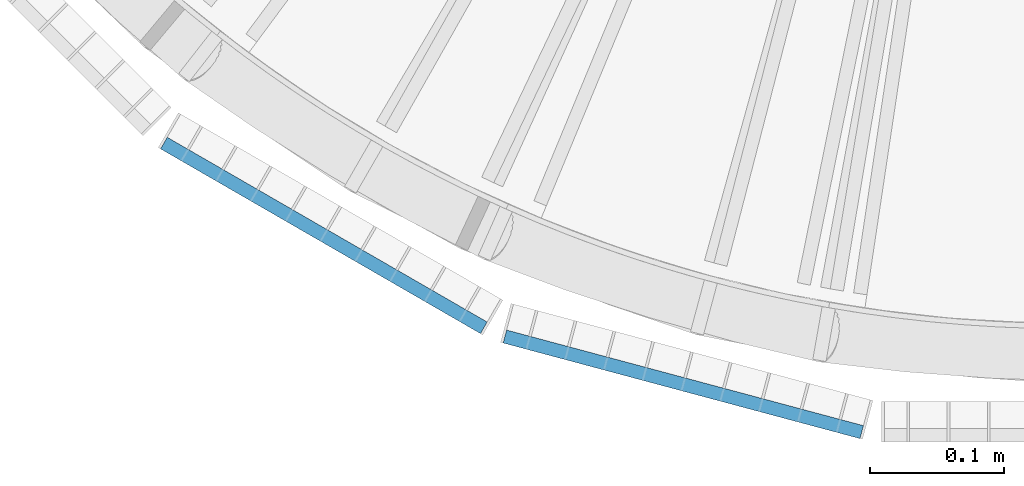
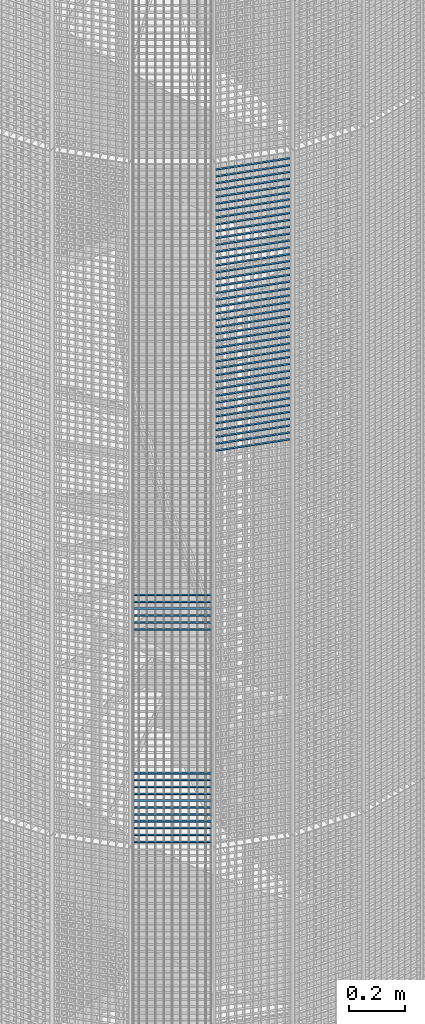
# One storey, part 360 of 1183: 59 beams, 2 elements without a shape of their own.
"""IFC2X3 building model written with IfcOpenShell, lengths in millimetres."""

from ifc_helpers import new_model, si_unit, frame, origin_with_axes, origin_2d_with_axis, place, context, subcontext, project, spatial, rectangle, extrude, material, type_object, element, aggregate, save


model = new_model("IFC2X3")

# Units and contexts
model_context = context("Model", 3, precision=1e-05, world=origin_with_axes())
body_context = subcontext(model_context, "Body", "Model", "MODEL_VIEW")
ifc_project = project(units=[si_unit("LENGTHUNIT", "METRE", prefix="MILLI"), si_unit("AREAUNIT", "SQUARE_METRE"), si_unit("VOLUMEUNIT", "CUBIC_METRE"), si_unit("MASSUNIT", "GRAM", prefix="KILO"), si_unit("TIMEUNIT", "SECOND"), si_unit("PLANEANGLEUNIT", "RADIAN"), si_unit("SOLIDANGLEUNIT", "STERADIAN"), si_unit("THERMODYNAMICTEMPERATUREUNIT", "DEGREE_CELSIUS"), si_unit("LUMINOUSINTENSITYUNIT", "LUMEN")], contexts=[model_context])

# Site, building, storey
site_placement = place(None, origin_with_axes())
site = spatial("IfcSite", under=ifc_project, at=site_placement, Name="Undefined", CompositionType="ELEMENT")
building_placement = place(site_placement, origin_with_axes())
building = spatial("IfcBuilding", under=site, at=building_placement, Name="Undefined", CompositionType="ELEMENT")
storey_placement = place(building_placement, origin_with_axes())
storey = spatial("IfcBuildingStorey", under=building, at=storey_placement, Name="Undefined", CompositionType="ELEMENT", Elevation=0.0)

# Assembly, beams
assembly_1_placement = place(storey_placement, origin_with_axes())
assembly_1 = element("IfcElementAssembly", 1, at=assembly_1_placement, inside=storey, Name="BORDURE", AssemblyPlace="NOTDEFINED", PredefinedType="NOTDEFINED")
ifc_material = material(Name="STEEL/S235JR")
beam_type = type_object("IfcBeamType", Name="PL2*10", PredefinedType="NOTDEFINED")
beam_1_placement = place(assembly_1_placement, frame((21162.7680445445, -1033.29996828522, 9330.0), z_axis=(-0.49999999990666, -0.866025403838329, 0.0), x_axis=(-0.866025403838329, 0.499999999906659, 0.0)))
beam_1 = element("IfcBeam", 2, at=beam_1_placement, type_object=beam_type, material=ifc_material, Name="ENTRETOISE", context=body_context, shape_type="SweptSolid", body=[
    extrude(rectangle(XDim=2.0, YDim=10.0, at=origin_2d_with_axis()), frame((275.999999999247, 9.09494701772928e-13, 1.53210777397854e-14), z_axis=(-1.0, 0.0, 0.0), x_axis=(0.0, -1.0, 0.0)), (0.0, 0.0, 1.0), 276.0),
])
beam_2_placement = place(assembly_1_placement, frame((21162.7680445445, -1033.29996828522, 9960.0), z_axis=(-0.49999999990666, -0.866025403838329, 0.0), x_axis=(-0.866025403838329, 0.499999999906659, 0.0)))
beam_2 = element("IfcBeam", 3, at=beam_2_placement, type_object=beam_type, material=ifc_material, Name="ENTRETOISE", context=body_context, shape_type="SweptSolid", body=[
    extrude(rectangle(XDim=2.0, YDim=10.0, at=origin_2d_with_axis()), frame((275.999999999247, 9.09494701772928e-13, 1.53210777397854e-14), z_axis=(-1.0, 0.0, 0.0), x_axis=(0.0, -1.0, 0.0)), (0.0, 0.0, 1.0), 276.0),
])
beam_3_placement = place(assembly_1_placement, frame((21162.7680445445, -1033.29996828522, 9300.0), z_axis=(-0.49999999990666, -0.866025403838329, 0.0), x_axis=(-0.866025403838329, 0.499999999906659, 0.0)))
beam_3 = element("IfcBeam", 4, at=beam_3_placement, type_object=beam_type, material=ifc_material, Name="ENTRETOISE", context=body_context, shape_type="SweptSolid", body=[
    extrude(rectangle(XDim=2.0, YDim=10.0, at=origin_2d_with_axis()), frame((275.999999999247, 9.09494701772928e-13, 1.53210777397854e-14), z_axis=(-1.0, 0.0, 0.0), x_axis=(0.0, -1.0, 0.0)), (0.0, 0.0, 1.0), 276.0),
])
beam_4_placement = place(assembly_1_placement, frame((21162.7680445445, -1033.29996828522, 9270.0), z_axis=(-0.49999999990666, -0.866025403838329, 0.0), x_axis=(-0.866025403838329, 0.499999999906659, 0.0)))
beam_4 = element("IfcBeam", 5, at=beam_4_placement, type_object=beam_type, material=ifc_material, Name="ENTRETOISE", context=body_context, shape_type="SweptSolid", body=[
    extrude(rectangle(XDim=2.0, YDim=10.0, at=origin_2d_with_axis()), frame((275.999999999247, 9.09494701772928e-13, 1.53210777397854e-14), z_axis=(-1.0, 0.0, 0.0), x_axis=(0.0, -1.0, 0.0)), (0.0, 0.0, 1.0), 276.0),
])
beam_5_placement = place(assembly_1_placement, frame((21162.7680445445, -1033.29996828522, 9990.0), z_axis=(-0.49999999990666, -0.866025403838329, 0.0), x_axis=(-0.866025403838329, 0.499999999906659, 0.0)))
beam_5 = element("IfcBeam", 6, at=beam_5_placement, type_object=beam_type, material=ifc_material, Name="ENTRETOISE", context=body_context, shape_type="SweptSolid", body=[
    extrude(rectangle(XDim=2.0, YDim=10.0, at=origin_2d_with_axis()), frame((275.999999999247, 9.09494701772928e-13, 1.53210777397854e-14), z_axis=(-1.0, 0.0, 0.0), x_axis=(0.0, -1.0, 0.0)), (0.0, 0.0, 1.0), 276.0),
])
beam_6_placement = place(assembly_1_placement, frame((21162.7680445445, -1033.29996828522, 9240.0), z_axis=(-0.49999999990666, -0.866025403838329, 0.0), x_axis=(-0.866025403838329, 0.499999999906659, 0.0)))
beam_6 = element("IfcBeam", 7, at=beam_6_placement, type_object=beam_type, material=ifc_material, Name="ENTRETOISE", context=body_context, shape_type="SweptSolid", body=[
    extrude(rectangle(XDim=2.0, YDim=10.0, at=origin_2d_with_axis()), frame((275.999999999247, 9.09494701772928e-13, 1.53210777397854e-14), z_axis=(-1.0, 0.0, 0.0), x_axis=(0.0, -1.0, 0.0)), (0.0, 0.0, 1.0), 276.0),
])
beam_7_placement = place(assembly_1_placement, frame((21162.7680445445, -1033.29996828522, 10020.0), z_axis=(-0.49999999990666, -0.866025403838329, 0.0), x_axis=(-0.866025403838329, 0.499999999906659, 0.0)))
beam_7 = element("IfcBeam", 8, at=beam_7_placement, type_object=beam_type, material=ifc_material, Name="ENTRETOISE", context=body_context, shape_type="SweptSolid", body=[
    extrude(rectangle(XDim=2.0, YDim=10.0, at=origin_2d_with_axis()), frame((275.999999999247, 9.09494701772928e-13, 1.53210777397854e-14), z_axis=(-1.0, 0.0, 0.0), x_axis=(0.0, -1.0, 0.0)), (0.0, 0.0, 1.0), 276.0),
])
beam_8_placement = place(assembly_1_placement, frame((21162.7680445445, -1033.29996828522, 9210.0), z_axis=(-0.49999999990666, -0.866025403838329, 0.0), x_axis=(-0.866025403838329, 0.499999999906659, 0.0)))
beam_8 = element("IfcBeam", 9, at=beam_8_placement, type_object=beam_type, material=ifc_material, Name="ENTRETOISE", context=body_context, shape_type="SweptSolid", body=[
    extrude(rectangle(XDim=2.0, YDim=10.0, at=origin_2d_with_axis()), frame((275.999999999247, 9.09494701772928e-13, 1.53210777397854e-14), z_axis=(-1.0, 0.0, 0.0), x_axis=(0.0, -1.0, 0.0)), (0.0, 0.0, 1.0), 276.0),
])
beam_9_placement = place(assembly_1_placement, frame((21162.7680445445, -1033.29996828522, 9180.0), z_axis=(-0.49999999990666, -0.866025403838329, 0.0), x_axis=(-0.866025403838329, 0.499999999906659, 0.0)))
beam_9 = element("IfcBeam", 10, at=beam_9_placement, type_object=beam_type, material=ifc_material, Name="ENTRETOISE", context=body_context, shape_type="SweptSolid", body=[
    extrude(rectangle(XDim=2.0, YDim=10.0, at=origin_2d_with_axis()), frame((275.999999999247, 9.09494701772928e-13, 1.53210777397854e-14), z_axis=(-1.0, 0.0, 0.0), x_axis=(0.0, -1.0, 0.0)), (0.0, 0.0, 1.0), 276.0),
])
beam_10_placement = place(assembly_1_placement, frame((21162.7680445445, -1033.29996828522, 10050.0), z_axis=(-0.49999999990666, -0.866025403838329, 0.0), x_axis=(-0.866025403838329, 0.499999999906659, 0.0)))
beam_10 = element("IfcBeam", 11, at=beam_10_placement, type_object=beam_type, material=ifc_material, Name="ENTRETOISE", context=body_context, shape_type="SweptSolid", body=[
    extrude(rectangle(XDim=2.0, YDim=10.0, at=origin_2d_with_axis()), frame((275.999999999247, 9.09494701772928e-13, 1.53210777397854e-14), z_axis=(-1.0, 0.0, 0.0), x_axis=(0.0, -1.0, 0.0)), (0.0, 0.0, 1.0), 276.0),
])
beam_11_placement = place(assembly_1_placement, frame((21162.7680445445, -1033.29996828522, 9150.0), z_axis=(-0.49999999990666, -0.866025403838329, 0.0), x_axis=(-0.866025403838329, 0.499999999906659, 0.0)))
beam_11 = element("IfcBeam", 12, at=beam_11_placement, type_object=beam_type, material=ifc_material, Name="ENTRETOISE", context=body_context, shape_type="SweptSolid", body=[
    extrude(rectangle(XDim=2.0, YDim=10.0, at=origin_2d_with_axis()), frame((275.999999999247, 9.09494701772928e-13, 1.53210777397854e-14), z_axis=(-1.0, 0.0, 0.0), x_axis=(0.0, -1.0, 0.0)), (0.0, 0.0, 1.0), 276.0),
])
beam_12_placement = place(assembly_1_placement, frame((21162.7680445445, -1033.29996828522, 9120.0), z_axis=(-0.49999999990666, -0.866025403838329, 0.0), x_axis=(-0.866025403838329, 0.499999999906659, 0.0)))
beam_12 = element("IfcBeam", 13, at=beam_12_placement, type_object=beam_type, material=ifc_material, Name="ENTRETOISE", context=body_context, shape_type="SweptSolid", body=[
    extrude(rectangle(XDim=2.0, YDim=10.0, at=origin_2d_with_axis()), frame((275.999999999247, 9.09494701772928e-13, 1.53210777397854e-14), z_axis=(-1.0, 0.0, 0.0), x_axis=(0.0, -1.0, 0.0)), (0.0, 0.0, 1.0), 276.0),
])
beam_13_placement = place(assembly_1_placement, frame((21162.7680445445, -1033.29996828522, 10080.0), z_axis=(-0.49999999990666, -0.866025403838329, 0.0), x_axis=(-0.866025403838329, 0.499999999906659, 0.0)))
beam_13 = element("IfcBeam", 14, at=beam_13_placement, type_object=beam_type, material=ifc_material, Name="ENTRETOISE", context=body_context, shape_type="SweptSolid", body=[
    extrude(rectangle(XDim=2.0, YDim=10.0, at=origin_2d_with_axis()), frame((275.999999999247, 9.09494701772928e-13, 1.53210777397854e-14), z_axis=(-1.0, 0.0, 0.0), x_axis=(0.0, -1.0, 0.0)), (0.0, 0.0, 1.0), 276.0),
])
beam_14_placement = place(assembly_1_placement, frame((21162.7680445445, -1033.29996828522, 9090.0), z_axis=(-0.49999999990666, -0.866025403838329, 0.0), x_axis=(-0.866025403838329, 0.499999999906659, 0.0)))
beam_14 = element("IfcBeam", 15, at=beam_14_placement, type_object=beam_type, material=ifc_material, Name="ENTRETOISE", context=body_context, shape_type="SweptSolid", body=[
    extrude(rectangle(XDim=2.0, YDim=10.0, at=origin_2d_with_axis()), frame((275.999999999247, 9.09494701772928e-13, 1.53210777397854e-14), z_axis=(-1.0, 0.0, 0.0), x_axis=(0.0, -1.0, 0.0)), (0.0, 0.0, 1.0), 276.0),
])
beam_15_placement = place(assembly_1_placement, frame((21162.7680445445, -1033.29996828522, 9060.0), z_axis=(-0.49999999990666, -0.866025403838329, 0.0), x_axis=(-0.866025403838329, 0.499999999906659, 0.0)))
beam_15 = element("IfcBeam", 16, at=beam_15_placement, type_object=beam_type, material=ifc_material, Name="ENTRETOISE", context=body_context, shape_type="SweptSolid", body=[
    extrude(rectangle(XDim=2.0, YDim=10.0, at=origin_2d_with_axis()), frame((275.999999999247, 9.09494701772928e-13, 1.53210777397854e-14), z_axis=(-1.0, 0.0, 0.0), x_axis=(0.0, -1.0, 0.0)), (0.0, 0.0, 1.0), 276.0),
])
beam_16_placement = place(assembly_1_placement, frame((21162.7680445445, -1033.29996828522, 10110.0), z_axis=(-0.49999999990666, -0.866025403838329, 0.0), x_axis=(-0.866025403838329, 0.499999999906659, 0.0)))
beam_16 = element("IfcBeam", 17, at=beam_16_placement, type_object=beam_type, material=ifc_material, Name="ENTRETOISE", context=body_context, shape_type="SweptSolid", body=[
    extrude(rectangle(XDim=2.0, YDim=10.0, at=origin_2d_with_axis()), frame((275.999999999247, 9.09494701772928e-13, 1.53210777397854e-14), z_axis=(-1.0, 0.0, 0.0), x_axis=(0.0, -1.0, 0.0)), (0.0, 0.0, 1.0), 276.0),
])
beam_17_placement = place(assembly_1_placement, frame((21162.7680445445, -1033.29996828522, 9030.0), z_axis=(-0.49999999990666, -0.866025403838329, 0.0), x_axis=(-0.866025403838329, 0.499999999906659, 0.0)))
beam_17 = element("IfcBeam", 18, at=beam_17_placement, type_object=beam_type, material=ifc_material, Name="ENTRETOISE", context=body_context, shape_type="SweptSolid", body=[
    extrude(rectangle(XDim=2.0, YDim=10.0, at=origin_2d_with_axis()), frame((275.999999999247, 9.09494701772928e-13, 1.53210777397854e-14), z_axis=(-1.0, 0.0, 0.0), x_axis=(0.0, -1.0, 0.0)), (0.0, 0.0, 1.0), 276.0),
])
aggregate(assembly_1, [beam_1, beam_2, beam_3, beam_4, beam_5, beam_6, beam_7, beam_8, beam_9, beam_10, beam_11, beam_12, beam_13, beam_14, beam_15, beam_16, beam_17])

assembly_2_placement = place(storey_placement, origin_with_axes())
assembly_2 = element("IfcElementAssembly", 19, at=assembly_2_placement, inside=storey, Name="BORDURE", AssemblyPlace="NOTDEFINED", PredefinedType="NOTDEFINED")
beam_18_placement = place(assembly_2_placement, frame((21445.1040732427, -1111.25508286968, 11970.0), z_axis=(-0.258819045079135, -0.965925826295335, 0.0), x_axis=(-0.965925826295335, 0.258819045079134, 0.0)))
beam_18 = element("IfcBeam", 20, at=beam_18_placement, type_object=beam_type, material=ifc_material, Name="ENTRETOISE", context=body_context, shape_type="SweptSolid", body=[
    extrude(rectangle(XDim=2.0, YDim=10.0, at=origin_2d_with_axis()), frame((275.999999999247, 9.09494701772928e-13, 1.53210777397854e-14), z_axis=(-1.0, 0.0, 0.0), x_axis=(0.0, -1.0, 0.0)), (0.0, 0.0, 1.0), 276.0),
])
beam_19_placement = place(assembly_2_placement, frame((21445.1040732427, -1111.25508286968, 11940.0), z_axis=(-0.258819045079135, -0.965925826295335, 0.0), x_axis=(-0.965925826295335, 0.258819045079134, 0.0)))
beam_19 = element("IfcBeam", 21, at=beam_19_placement, type_object=beam_type, material=ifc_material, Name="ENTRETOISE", context=body_context, shape_type="SweptSolid", body=[
    extrude(rectangle(XDim=2.0, YDim=10.0, at=origin_2d_with_axis()), frame((275.999999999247, 9.09494701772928e-13, 1.53210777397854e-14), z_axis=(-1.0, 0.0, 0.0), x_axis=(0.0, -1.0, 0.0)), (0.0, 0.0, 1.0), 276.0),
])
beam_20_placement = place(assembly_2_placement, frame((21445.1040732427, -1111.25508286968, 11910.0), z_axis=(-0.258819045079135, -0.965925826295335, 0.0), x_axis=(-0.965925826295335, 0.258819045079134, 0.0)))
beam_20 = element("IfcBeam", 22, at=beam_20_placement, type_object=beam_type, material=ifc_material, Name="ENTRETOISE", context=body_context, shape_type="SweptSolid", body=[
    extrude(rectangle(XDim=2.0, YDim=10.0, at=origin_2d_with_axis()), frame((275.999999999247, 9.09494701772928e-13, 1.53210777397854e-14), z_axis=(-1.0, 0.0, 0.0), x_axis=(0.0, -1.0, 0.0)), (0.0, 0.0, 1.0), 276.0),
])
beam_21_placement = place(assembly_2_placement, frame((21445.1040732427, -1111.25508286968, 11880.0), z_axis=(-0.258819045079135, -0.965925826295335, 0.0), x_axis=(-0.965925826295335, 0.258819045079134, 0.0)))
beam_21 = element("IfcBeam", 23, at=beam_21_placement, type_object=beam_type, material=ifc_material, Name="ENTRETOISE", context=body_context, shape_type="SweptSolid", body=[
    extrude(rectangle(XDim=2.0, YDim=10.0, at=origin_2d_with_axis()), frame((275.999999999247, 9.09494701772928e-13, 1.53210777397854e-14), z_axis=(-1.0, 0.0, 0.0), x_axis=(0.0, -1.0, 0.0)), (0.0, 0.0, 1.0), 276.0),
])
beam_22_placement = place(assembly_2_placement, frame((21445.1040732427, -1111.25508286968, 11850.0), z_axis=(-0.258819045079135, -0.965925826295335, 0.0), x_axis=(-0.965925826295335, 0.258819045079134, 0.0)))
beam_22 = element("IfcBeam", 24, at=beam_22_placement, type_object=beam_type, material=ifc_material, Name="ENTRETOISE", context=body_context, shape_type="SweptSolid", body=[
    extrude(rectangle(XDim=2.0, YDim=10.0, at=origin_2d_with_axis()), frame((275.999999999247, 9.09494701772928e-13, 1.53210777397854e-14), z_axis=(-1.0, 0.0, 0.0), x_axis=(0.0, -1.0, 0.0)), (0.0, 0.0, 1.0), 276.0),
])
beam_23_placement = place(assembly_2_placement, frame((21445.1040732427, -1111.25508286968, 11820.0), z_axis=(-0.258819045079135, -0.965925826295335, 0.0), x_axis=(-0.965925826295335, 0.258819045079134, 0.0)))
beam_23 = element("IfcBeam", 25, at=beam_23_placement, type_object=beam_type, material=ifc_material, Name="ENTRETOISE", context=body_context, shape_type="SweptSolid", body=[
    extrude(rectangle(XDim=2.0, YDim=10.0, at=origin_2d_with_axis()), frame((275.999999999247, 9.09494701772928e-13, 1.53210777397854e-14), z_axis=(-1.0, 0.0, 0.0), x_axis=(0.0, -1.0, 0.0)), (0.0, 0.0, 1.0), 276.0),
])
beam_24_placement = place(assembly_2_placement, frame((21445.1040732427, -1111.25508286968, 11790.0), z_axis=(-0.258819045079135, -0.965925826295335, 0.0), x_axis=(-0.965925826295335, 0.258819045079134, 0.0)))
beam_24 = element("IfcBeam", 26, at=beam_24_placement, type_object=beam_type, material=ifc_material, Name="ENTRETOISE", context=body_context, shape_type="SweptSolid", body=[
    extrude(rectangle(XDim=2.0, YDim=10.0, at=origin_2d_with_axis()), frame((275.999999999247, 9.09494701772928e-13, 1.53210777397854e-14), z_axis=(-1.0, 0.0, 0.0), x_axis=(0.0, -1.0, 0.0)), (0.0, 0.0, 1.0), 276.0),
])
beam_25_placement = place(assembly_2_placement, frame((21445.1040732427, -1111.25508286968, 11760.0), z_axis=(-0.258819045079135, -0.965925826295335, 0.0), x_axis=(-0.965925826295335, 0.258819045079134, 0.0)))
beam_25 = element("IfcBeam", 27, at=beam_25_placement, type_object=beam_type, material=ifc_material, Name="ENTRETOISE", context=body_context, shape_type="SweptSolid", body=[
    extrude(rectangle(XDim=2.0, YDim=10.0, at=origin_2d_with_axis()), frame((275.999999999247, 9.09494701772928e-13, 1.53210777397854e-14), z_axis=(-1.0, 0.0, 0.0), x_axis=(0.0, -1.0, 0.0)), (0.0, 0.0, 1.0), 276.0),
])
beam_26_placement = place(assembly_2_placement, frame((21445.1040732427, -1111.25508286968, 11730.0), z_axis=(-0.258819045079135, -0.965925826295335, 0.0), x_axis=(-0.965925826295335, 0.258819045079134, 0.0)))
beam_26 = element("IfcBeam", 28, at=beam_26_placement, type_object=beam_type, material=ifc_material, Name="ENTRETOISE", context=body_context, shape_type="SweptSolid", body=[
    extrude(rectangle(XDim=2.0, YDim=10.0, at=origin_2d_with_axis()), frame((275.999999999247, 9.09494701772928e-13, 1.53210777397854e-14), z_axis=(-1.0, 0.0, 0.0), x_axis=(0.0, -1.0, 0.0)), (0.0, 0.0, 1.0), 276.0),
])
beam_27_placement = place(assembly_2_placement, frame((21445.1040732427, -1111.25508286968, 11700.0), z_axis=(-0.258819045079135, -0.965925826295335, 0.0), x_axis=(-0.965925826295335, 0.258819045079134, 0.0)))
beam_27 = element("IfcBeam", 29, at=beam_27_placement, type_object=beam_type, material=ifc_material, Name="ENTRETOISE", context=body_context, shape_type="SweptSolid", body=[
    extrude(rectangle(XDim=2.0, YDim=10.0, at=origin_2d_with_axis()), frame((275.999999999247, 9.09494701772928e-13, 1.53210777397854e-14), z_axis=(-1.0, 0.0, 0.0), x_axis=(0.0, -1.0, 0.0)), (0.0, 0.0, 1.0), 276.0),
])
beam_28_placement = place(assembly_2_placement, frame((21445.1040732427, -1111.25508286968, 11670.0), z_axis=(-0.258819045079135, -0.965925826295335, 0.0), x_axis=(-0.965925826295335, 0.258819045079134, 0.0)))
beam_28 = element("IfcBeam", 30, at=beam_28_placement, type_object=beam_type, material=ifc_material, Name="ENTRETOISE", context=body_context, shape_type="SweptSolid", body=[
    extrude(rectangle(XDim=2.0, YDim=10.0, at=origin_2d_with_axis()), frame((275.999999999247, 9.09494701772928e-13, 1.53210777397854e-14), z_axis=(-1.0, 0.0, 0.0), x_axis=(0.0, -1.0, 0.0)), (0.0, 0.0, 1.0), 276.0),
])
beam_29_placement = place(assembly_2_placement, frame((21445.1040732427, -1111.25508286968, 11640.0), z_axis=(-0.258819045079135, -0.965925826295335, 0.0), x_axis=(-0.965925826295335, 0.258819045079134, 0.0)))
beam_29 = element("IfcBeam", 31, at=beam_29_placement, type_object=beam_type, material=ifc_material, Name="ENTRETOISE", context=body_context, shape_type="SweptSolid", body=[
    extrude(rectangle(XDim=2.0, YDim=10.0, at=origin_2d_with_axis()), frame((275.999999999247, 9.09494701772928e-13, 1.53210777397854e-14), z_axis=(-1.0, 0.0, 0.0), x_axis=(0.0, -1.0, 0.0)), (0.0, 0.0, 1.0), 276.0),
])
beam_30_placement = place(assembly_2_placement, frame((21445.1040732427, -1111.25508286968, 11610.0), z_axis=(-0.258819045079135, -0.965925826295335, 0.0), x_axis=(-0.965925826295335, 0.258819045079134, 0.0)))
beam_30 = element("IfcBeam", 32, at=beam_30_placement, type_object=beam_type, material=ifc_material, Name="ENTRETOISE", context=body_context, shape_type="SweptSolid", body=[
    extrude(rectangle(XDim=2.0, YDim=10.0, at=origin_2d_with_axis()), frame((275.999999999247, 9.09494701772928e-13, 1.53210777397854e-14), z_axis=(-1.0, 0.0, 0.0), x_axis=(0.0, -1.0, 0.0)), (0.0, 0.0, 1.0), 276.0),
])
beam_31_placement = place(assembly_2_placement, frame((21445.1040732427, -1111.25508286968, 11580.0), z_axis=(-0.258819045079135, -0.965925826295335, 0.0), x_axis=(-0.965925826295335, 0.258819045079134, 0.0)))
beam_31 = element("IfcBeam", 33, at=beam_31_placement, type_object=beam_type, material=ifc_material, Name="ENTRETOISE", context=body_context, shape_type="SweptSolid", body=[
    extrude(rectangle(XDim=2.0, YDim=10.0, at=origin_2d_with_axis()), frame((275.999999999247, 9.09494701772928e-13, 1.53210777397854e-14), z_axis=(-1.0, 0.0, 0.0), x_axis=(0.0, -1.0, 0.0)), (0.0, 0.0, 1.0), 276.0),
])
beam_32_placement = place(assembly_2_placement, frame((21445.1040732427, -1111.25508286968, 11550.0), z_axis=(-0.258819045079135, -0.965925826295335, 0.0), x_axis=(-0.965925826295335, 0.258819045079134, 0.0)))
beam_32 = element("IfcBeam", 34, at=beam_32_placement, type_object=beam_type, material=ifc_material, Name="ENTRETOISE", context=body_context, shape_type="SweptSolid", body=[
    extrude(rectangle(XDim=2.0, YDim=10.0, at=origin_2d_with_axis()), frame((275.999999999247, 9.09494701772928e-13, 1.53210777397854e-14), z_axis=(-1.0, 0.0, 0.0), x_axis=(0.0, -1.0, 0.0)), (0.0, 0.0, 1.0), 276.0),
])
beam_33_placement = place(assembly_2_placement, frame((21445.1040732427, -1111.25508286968, 11520.0), z_axis=(-0.258819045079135, -0.965925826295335, 0.0), x_axis=(-0.965925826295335, 0.258819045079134, 0.0)))
beam_33 = element("IfcBeam", 35, at=beam_33_placement, type_object=beam_type, material=ifc_material, Name="ENTRETOISE", context=body_context, shape_type="SweptSolid", body=[
    extrude(rectangle(XDim=2.0, YDim=10.0, at=origin_2d_with_axis()), frame((275.999999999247, 9.09494701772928e-13, 1.53210777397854e-14), z_axis=(-1.0, 0.0, 0.0), x_axis=(0.0, -1.0, 0.0)), (0.0, 0.0, 1.0), 276.0),
])
beam_34_placement = place(assembly_2_placement, frame((21445.1040732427, -1111.25508286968, 11490.0), z_axis=(-0.258819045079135, -0.965925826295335, 0.0), x_axis=(-0.965925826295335, 0.258819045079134, 0.0)))
beam_34 = element("IfcBeam", 36, at=beam_34_placement, type_object=beam_type, material=ifc_material, Name="ENTRETOISE", context=body_context, shape_type="SweptSolid", body=[
    extrude(rectangle(XDim=2.0, YDim=10.0, at=origin_2d_with_axis()), frame((275.999999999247, 9.09494701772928e-13, 1.53210777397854e-14), z_axis=(-1.0, 0.0, 0.0), x_axis=(0.0, -1.0, 0.0)), (0.0, 0.0, 1.0), 276.0),
])
beam_35_placement = place(assembly_2_placement, frame((21445.1040732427, -1111.25508286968, 11460.0), z_axis=(-0.258819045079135, -0.965925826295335, 0.0), x_axis=(-0.965925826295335, 0.258819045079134, 0.0)))
beam_35 = element("IfcBeam", 37, at=beam_35_placement, type_object=beam_type, material=ifc_material, Name="ENTRETOISE", context=body_context, shape_type="SweptSolid", body=[
    extrude(rectangle(XDim=2.0, YDim=10.0, at=origin_2d_with_axis()), frame((275.999999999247, 9.09494701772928e-13, 1.53210777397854e-14), z_axis=(-1.0, 0.0, 0.0), x_axis=(0.0, -1.0, 0.0)), (0.0, 0.0, 1.0), 276.0),
])
beam_36_placement = place(assembly_2_placement, frame((21445.1040732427, -1111.25508286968, 11430.0), z_axis=(-0.258819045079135, -0.965925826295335, 0.0), x_axis=(-0.965925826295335, 0.258819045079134, 0.0)))
beam_36 = element("IfcBeam", 38, at=beam_36_placement, type_object=beam_type, material=ifc_material, Name="ENTRETOISE", context=body_context, shape_type="SweptSolid", body=[
    extrude(rectangle(XDim=2.0, YDim=10.0, at=origin_2d_with_axis()), frame((275.999999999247, 9.09494701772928e-13, 1.53210777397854e-14), z_axis=(-1.0, 0.0, 0.0), x_axis=(0.0, -1.0, 0.0)), (0.0, 0.0, 1.0), 276.0),
])
beam_37_placement = place(assembly_2_placement, frame((21445.1040732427, -1111.25508286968, 11400.0), z_axis=(-0.258819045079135, -0.965925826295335, 0.0), x_axis=(-0.965925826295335, 0.258819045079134, 0.0)))
beam_37 = element("IfcBeam", 39, at=beam_37_placement, type_object=beam_type, material=ifc_material, Name="ENTRETOISE", context=body_context, shape_type="SweptSolid", body=[
    extrude(rectangle(XDim=2.0, YDim=10.0, at=origin_2d_with_axis()), frame((275.999999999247, 9.09494701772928e-13, 1.53210777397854e-14), z_axis=(-1.0, 0.0, 0.0), x_axis=(0.0, -1.0, 0.0)), (0.0, 0.0, 1.0), 276.0),
])
beam_38_placement = place(assembly_2_placement, frame((21445.1040732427, -1111.25508286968, 11370.0), z_axis=(-0.258819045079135, -0.965925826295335, 0.0), x_axis=(-0.965925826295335, 0.258819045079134, 0.0)))
beam_38 = element("IfcBeam", 40, at=beam_38_placement, type_object=beam_type, material=ifc_material, Name="ENTRETOISE", context=body_context, shape_type="SweptSolid", body=[
    extrude(rectangle(XDim=2.0, YDim=10.0, at=origin_2d_with_axis()), frame((275.999999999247, 9.09494701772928e-13, 1.53210777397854e-14), z_axis=(-1.0, 0.0, 0.0), x_axis=(0.0, -1.0, 0.0)), (0.0, 0.0, 1.0), 276.0),
])
beam_39_placement = place(assembly_2_placement, frame((21445.1040732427, -1111.25508286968, 11340.0), z_axis=(-0.258819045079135, -0.965925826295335, 0.0), x_axis=(-0.965925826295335, 0.258819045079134, 0.0)))
beam_39 = element("IfcBeam", 41, at=beam_39_placement, type_object=beam_type, material=ifc_material, Name="ENTRETOISE", context=body_context, shape_type="SweptSolid", body=[
    extrude(rectangle(XDim=2.0, YDim=10.0, at=origin_2d_with_axis()), frame((275.999999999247, 9.09494701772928e-13, 1.53210777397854e-14), z_axis=(-1.0, 0.0, 0.0), x_axis=(0.0, -1.0, 0.0)), (0.0, 0.0, 1.0), 276.0),
])
beam_40_placement = place(assembly_2_placement, frame((21445.1040732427, -1111.25508286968, 11310.0), z_axis=(-0.258819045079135, -0.965925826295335, 0.0), x_axis=(-0.965925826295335, 0.258819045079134, 0.0)))
beam_40 = element("IfcBeam", 42, at=beam_40_placement, type_object=beam_type, material=ifc_material, Name="ENTRETOISE", context=body_context, shape_type="SweptSolid", body=[
    extrude(rectangle(XDim=2.0, YDim=10.0, at=origin_2d_with_axis()), frame((275.999999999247, 9.09494701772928e-13, 1.53210777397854e-14), z_axis=(-1.0, 0.0, 0.0), x_axis=(0.0, -1.0, 0.0)), (0.0, 0.0, 1.0), 276.0),
])
beam_41_placement = place(assembly_2_placement, frame((21445.1040732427, -1111.25508286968, 11280.0), z_axis=(-0.258819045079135, -0.965925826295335, 0.0), x_axis=(-0.965925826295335, 0.258819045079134, 0.0)))
beam_41 = element("IfcBeam", 43, at=beam_41_placement, type_object=beam_type, material=ifc_material, Name="ENTRETOISE", context=body_context, shape_type="SweptSolid", body=[
    extrude(rectangle(XDim=2.0, YDim=10.0, at=origin_2d_with_axis()), frame((275.999999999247, 9.09494701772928e-13, 1.53210777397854e-14), z_axis=(-1.0, 0.0, 0.0), x_axis=(0.0, -1.0, 0.0)), (0.0, 0.0, 1.0), 276.0),
])
beam_42_placement = place(assembly_2_placement, frame((21445.1040732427, -1111.25508286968, 11250.0), z_axis=(-0.258819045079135, -0.965925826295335, 0.0), x_axis=(-0.965925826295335, 0.258819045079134, 0.0)))
beam_42 = element("IfcBeam", 44, at=beam_42_placement, type_object=beam_type, material=ifc_material, Name="ENTRETOISE", context=body_context, shape_type="SweptSolid", body=[
    extrude(rectangle(XDim=2.0, YDim=10.0, at=origin_2d_with_axis()), frame((275.999999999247, 9.09494701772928e-13, 1.53210777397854e-14), z_axis=(-1.0, 0.0, 0.0), x_axis=(0.0, -1.0, 0.0)), (0.0, 0.0, 1.0), 276.0),
])
beam_43_placement = place(assembly_2_placement, frame((21445.1040732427, -1111.25508286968, 11220.0), z_axis=(-0.258819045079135, -0.965925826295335, 0.0), x_axis=(-0.965925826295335, 0.258819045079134, 0.0)))
beam_43 = element("IfcBeam", 45, at=beam_43_placement, type_object=beam_type, material=ifc_material, Name="ENTRETOISE", context=body_context, shape_type="SweptSolid", body=[
    extrude(rectangle(XDim=2.0, YDim=10.0, at=origin_2d_with_axis()), frame((275.999999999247, 9.09494701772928e-13, 1.53210777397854e-14), z_axis=(-1.0, 0.0, 0.0), x_axis=(0.0, -1.0, 0.0)), (0.0, 0.0, 1.0), 276.0),
])
beam_44_placement = place(assembly_2_placement, frame((21445.1040732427, -1111.25508286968, 11190.0), z_axis=(-0.258819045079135, -0.965925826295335, 0.0), x_axis=(-0.965925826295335, 0.258819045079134, 0.0)))
beam_44 = element("IfcBeam", 46, at=beam_44_placement, type_object=beam_type, material=ifc_material, Name="ENTRETOISE", context=body_context, shape_type="SweptSolid", body=[
    extrude(rectangle(XDim=2.0, YDim=10.0, at=origin_2d_with_axis()), frame((275.999999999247, 9.09494701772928e-13, 1.53210777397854e-14), z_axis=(-1.0, 0.0, 0.0), x_axis=(0.0, -1.0, 0.0)), (0.0, 0.0, 1.0), 276.0),
])
beam_45_placement = place(assembly_2_placement, frame((21445.1040732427, -1111.25508286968, 11160.0), z_axis=(-0.258819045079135, -0.965925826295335, 0.0), x_axis=(-0.965925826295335, 0.258819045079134, 0.0)))
beam_45 = element("IfcBeam", 47, at=beam_45_placement, type_object=beam_type, material=ifc_material, Name="ENTRETOISE", context=body_context, shape_type="SweptSolid", body=[
    extrude(rectangle(XDim=2.0, YDim=10.0, at=origin_2d_with_axis()), frame((275.999999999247, 9.09494701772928e-13, 1.53210777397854e-14), z_axis=(-1.0, 0.0, 0.0), x_axis=(0.0, -1.0, 0.0)), (0.0, 0.0, 1.0), 276.0),
])
beam_46_placement = place(assembly_2_placement, frame((21445.1040732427, -1111.25508286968, 11130.0), z_axis=(-0.258819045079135, -0.965925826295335, 0.0), x_axis=(-0.965925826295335, 0.258819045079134, 0.0)))
beam_46 = element("IfcBeam", 48, at=beam_46_placement, type_object=beam_type, material=ifc_material, Name="ENTRETOISE", context=body_context, shape_type="SweptSolid", body=[
    extrude(rectangle(XDim=2.0, YDim=10.0, at=origin_2d_with_axis()), frame((275.999999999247, 9.09494701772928e-13, 1.53210777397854e-14), z_axis=(-1.0, 0.0, 0.0), x_axis=(0.0, -1.0, 0.0)), (0.0, 0.0, 1.0), 276.0),
])
beam_47_placement = place(assembly_2_placement, frame((21445.1040732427, -1111.25508286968, 11100.0), z_axis=(-0.258819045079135, -0.965925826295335, 0.0), x_axis=(-0.965925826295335, 0.258819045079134, 0.0)))
beam_47 = element("IfcBeam", 49, at=beam_47_placement, type_object=beam_type, material=ifc_material, Name="ENTRETOISE", context=body_context, shape_type="SweptSolid", body=[
    extrude(rectangle(XDim=2.0, YDim=10.0, at=origin_2d_with_axis()), frame((275.999999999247, 9.09494701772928e-13, 1.53210777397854e-14), z_axis=(-1.0, 0.0, 0.0), x_axis=(0.0, -1.0, 0.0)), (0.0, 0.0, 1.0), 276.0),
])
beam_48_placement = place(assembly_2_placement, frame((21445.1040732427, -1111.25508286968, 11070.0), z_axis=(-0.258819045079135, -0.965925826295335, 0.0), x_axis=(-0.965925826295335, 0.258819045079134, 0.0)))
beam_48 = element("IfcBeam", 50, at=beam_48_placement, type_object=beam_type, material=ifc_material, Name="ENTRETOISE", context=body_context, shape_type="SweptSolid", body=[
    extrude(rectangle(XDim=2.0, YDim=10.0, at=origin_2d_with_axis()), frame((275.999999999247, 9.09494701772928e-13, 1.53210777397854e-14), z_axis=(-1.0, 0.0, 0.0), x_axis=(0.0, -1.0, 0.0)), (0.0, 0.0, 1.0), 276.0),
])
beam_49_placement = place(assembly_2_placement, frame((21445.1040732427, -1111.25508286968, 11040.0), z_axis=(-0.258819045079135, -0.965925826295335, 0.0), x_axis=(-0.965925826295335, 0.258819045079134, 0.0)))
beam_49 = element("IfcBeam", 51, at=beam_49_placement, type_object=beam_type, material=ifc_material, Name="ENTRETOISE", context=body_context, shape_type="SweptSolid", body=[
    extrude(rectangle(XDim=2.0, YDim=10.0, at=origin_2d_with_axis()), frame((275.999999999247, 9.09494701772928e-13, 1.53210777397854e-14), z_axis=(-1.0, 0.0, 0.0), x_axis=(0.0, -1.0, 0.0)), (0.0, 0.0, 1.0), 276.0),
])
beam_50_placement = place(assembly_2_placement, frame((21445.1040732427, -1111.25508286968, 11010.0), z_axis=(-0.258819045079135, -0.965925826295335, 0.0), x_axis=(-0.965925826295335, 0.258819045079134, 0.0)))
beam_50 = element("IfcBeam", 52, at=beam_50_placement, type_object=beam_type, material=ifc_material, Name="ENTRETOISE", context=body_context, shape_type="SweptSolid", body=[
    extrude(rectangle(XDim=2.0, YDim=10.0, at=origin_2d_with_axis()), frame((275.999999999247, 9.09494701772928e-13, 1.53210777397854e-14), z_axis=(-1.0, 0.0, 0.0), x_axis=(0.0, -1.0, 0.0)), (0.0, 0.0, 1.0), 276.0),
])
beam_51_placement = place(assembly_2_placement, frame((21445.1040732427, -1111.25508286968, 10980.0), z_axis=(-0.258819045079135, -0.965925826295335, 0.0), x_axis=(-0.965925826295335, 0.258819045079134, 0.0)))
beam_51 = element("IfcBeam", 53, at=beam_51_placement, type_object=beam_type, material=ifc_material, Name="ENTRETOISE", context=body_context, shape_type="SweptSolid", body=[
    extrude(rectangle(XDim=2.0, YDim=10.0, at=origin_2d_with_axis()), frame((275.999999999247, 9.09494701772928e-13, 1.53210777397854e-14), z_axis=(-1.0, 0.0, 0.0), x_axis=(0.0, -1.0, 0.0)), (0.0, 0.0, 1.0), 276.0),
])
beam_52_placement = place(assembly_2_placement, frame((21445.1040732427, -1111.25508286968, 10950.0), z_axis=(-0.258819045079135, -0.965925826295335, 0.0), x_axis=(-0.965925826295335, 0.258819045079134, 0.0)))
beam_52 = element("IfcBeam", 54, at=beam_52_placement, type_object=beam_type, material=ifc_material, Name="ENTRETOISE", context=body_context, shape_type="SweptSolid", body=[
    extrude(rectangle(XDim=2.0, YDim=10.0, at=origin_2d_with_axis()), frame((275.999999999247, 9.09494701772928e-13, 1.53210777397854e-14), z_axis=(-1.0, 0.0, 0.0), x_axis=(0.0, -1.0, 0.0)), (0.0, 0.0, 1.0), 276.0),
])
beam_53_placement = place(assembly_2_placement, frame((21445.1040732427, -1111.25508286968, 10920.0), z_axis=(-0.258819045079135, -0.965925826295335, 0.0), x_axis=(-0.965925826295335, 0.258819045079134, 0.0)))
beam_53 = element("IfcBeam", 55, at=beam_53_placement, type_object=beam_type, material=ifc_material, Name="ENTRETOISE", context=body_context, shape_type="SweptSolid", body=[
    extrude(rectangle(XDim=2.0, YDim=10.0, at=origin_2d_with_axis()), frame((275.999999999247, 9.09494701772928e-13, 1.53210777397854e-14), z_axis=(-1.0, 0.0, 0.0), x_axis=(0.0, -1.0, 0.0)), (0.0, 0.0, 1.0), 276.0),
])
beam_54_placement = place(assembly_2_placement, frame((21445.1040732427, -1111.25508286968, 10890.0), z_axis=(-0.258819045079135, -0.965925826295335, 0.0), x_axis=(-0.965925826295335, 0.258819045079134, 0.0)))
beam_54 = element("IfcBeam", 56, at=beam_54_placement, type_object=beam_type, material=ifc_material, Name="ENTRETOISE", context=body_context, shape_type="SweptSolid", body=[
    extrude(rectangle(XDim=2.0, YDim=10.0, at=origin_2d_with_axis()), frame((275.999999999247, 9.09494701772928e-13, 1.53210777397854e-14), z_axis=(-1.0, 0.0, 0.0), x_axis=(0.0, -1.0, 0.0)), (0.0, 0.0, 1.0), 276.0),
])
beam_55_placement = place(assembly_2_placement, frame((21445.1040732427, -1111.25508286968, 10860.0), z_axis=(-0.258819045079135, -0.965925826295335, 0.0), x_axis=(-0.965925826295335, 0.258819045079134, 0.0)))
beam_55 = element("IfcBeam", 57, at=beam_55_placement, type_object=beam_type, material=ifc_material, Name="ENTRETOISE", context=body_context, shape_type="SweptSolid", body=[
    extrude(rectangle(XDim=2.0, YDim=10.0, at=origin_2d_with_axis()), frame((275.999999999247, 9.09494701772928e-13, 1.53210777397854e-14), z_axis=(-1.0, 0.0, 0.0), x_axis=(0.0, -1.0, 0.0)), (0.0, 0.0, 1.0), 276.0),
])
beam_56_placement = place(assembly_2_placement, frame((21445.1040732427, -1111.25508286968, 10830.0), z_axis=(-0.258819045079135, -0.965925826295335, 0.0), x_axis=(-0.965925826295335, 0.258819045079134, 0.0)))
beam_56 = element("IfcBeam", 58, at=beam_56_placement, type_object=beam_type, material=ifc_material, Name="ENTRETOISE", context=body_context, shape_type="SweptSolid", body=[
    extrude(rectangle(XDim=2.0, YDim=10.0, at=origin_2d_with_axis()), frame((275.999999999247, 9.09494701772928e-13, 1.53210777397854e-14), z_axis=(-1.0, 0.0, 0.0), x_axis=(0.0, -1.0, 0.0)), (0.0, 0.0, 1.0), 276.0),
])
beam_57_placement = place(assembly_2_placement, frame((21445.1040732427, -1111.25508286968, 10800.0), z_axis=(-0.258819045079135, -0.965925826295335, 0.0), x_axis=(-0.965925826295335, 0.258819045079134, 0.0)))
beam_57 = element("IfcBeam", 59, at=beam_57_placement, type_object=beam_type, material=ifc_material, Name="ENTRETOISE", context=body_context, shape_type="SweptSolid", body=[
    extrude(rectangle(XDim=2.0, YDim=10.0, at=origin_2d_with_axis()), frame((275.999999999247, 9.09494701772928e-13, 1.53210777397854e-14), z_axis=(-1.0, 0.0, 0.0), x_axis=(0.0, -1.0, 0.0)), (0.0, 0.0, 1.0), 276.0),
])
beam_58_placement = place(assembly_2_placement, frame((21445.1040732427, -1111.25508286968, 10770.0), z_axis=(-0.258819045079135, -0.965925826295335, 0.0), x_axis=(-0.965925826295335, 0.258819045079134, 0.0)))
beam_58 = element("IfcBeam", 60, at=beam_58_placement, type_object=beam_type, material=ifc_material, Name="ENTRETOISE", context=body_context, shape_type="SweptSolid", body=[
    extrude(rectangle(XDim=2.0, YDim=10.0, at=origin_2d_with_axis()), frame((275.999999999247, 9.09494701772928e-13, 1.53210777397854e-14), z_axis=(-1.0, 0.0, 0.0), x_axis=(0.0, -1.0, 0.0)), (0.0, 0.0, 1.0), 276.0),
])
beam_59_placement = place(assembly_2_placement, frame((21445.1040732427, -1111.25508286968, 10740.0), z_axis=(-0.258819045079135, -0.965925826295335, 0.0), x_axis=(-0.965925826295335, 0.258819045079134, 0.0)))
beam_59 = element("IfcBeam", 61, at=beam_59_placement, type_object=beam_type, material=ifc_material, Name="ENTRETOISE", context=body_context, shape_type="SweptSolid", body=[
    extrude(rectangle(XDim=2.0, YDim=10.0, at=origin_2d_with_axis()), frame((275.999999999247, 9.09494701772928e-13, 1.53210777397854e-14), z_axis=(-1.0, 0.0, 0.0), x_axis=(0.0, -1.0, 0.0)), (0.0, 0.0, 1.0), 276.0),
])
aggregate(assembly_2, [beam_18, beam_19, beam_20, beam_21, beam_22, beam_23, beam_24, beam_25, beam_26, beam_27, beam_28, beam_29, beam_30, beam_31, beam_32, beam_33, beam_34, beam_35, beam_36, beam_37, beam_38, beam_39, beam_40, beam_41, beam_42, beam_43, beam_44, beam_45, beam_46, beam_47, beam_48, beam_49, beam_50, beam_51, beam_52, beam_53, beam_54, beam_55, beam_56, beam_57, beam_58, beam_59])

save(model, "model.ifc")
